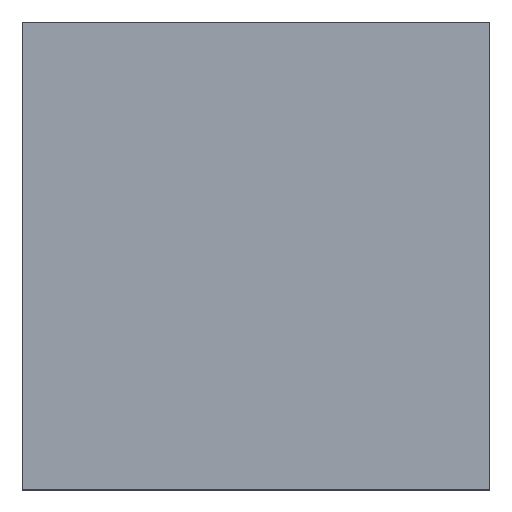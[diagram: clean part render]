
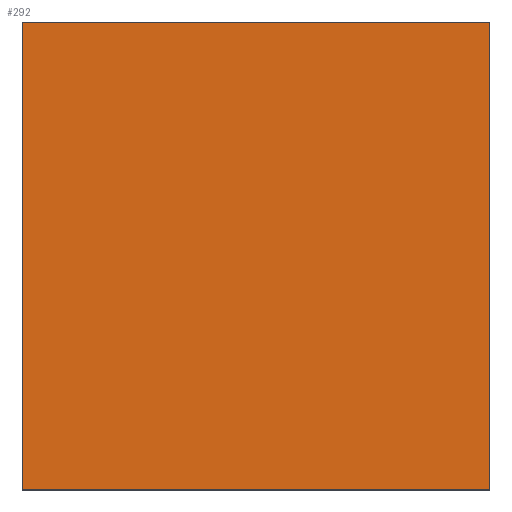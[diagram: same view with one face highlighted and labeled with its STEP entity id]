
A CAD part, top view. The second image highlights one B-rep face of the part: STEP entity #292.
In plain terms, the highlighted planar face has unit normal (0, 0, 1).
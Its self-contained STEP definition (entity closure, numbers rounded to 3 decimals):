
#71 = CARTESIAN_POINT ( 'NONE',  ( -15., -30., 15. ) ) ;
#93 = CARTESIAN_POINT ( 'NONE',  ( 15., 0., 15. ) ) ;
#138 = EDGE_CURVE ( 'NONE', #663, #472, #650, .T. ) ;
#141 = VECTOR ( 'NONE', #701, 1000. ) ;
#150 = VECTOR ( 'NONE', #665, 1000. ) ;
#179 = CARTESIAN_POINT ( 'NONE',  ( 15., -30., 15. ) ) ;
#202 = CARTESIAN_POINT ( 'NONE',  ( -15., -30., 15. ) ) ;
#228 = VERTEX_POINT ( 'NONE', #202 ) ;
#279 = ORIENTED_EDGE ( 'NONE', *, *, #138, .T. ) ;
#292 = ADVANCED_FACE ( 'NONE', ( #608 ), #555, .F. ) ;
#299 = DIRECTION ( 'NONE',  ( 0., -1., 0. ) ) ;
#306 = VECTOR ( 'NONE', #629, 1000. ) ;
#352 = VERTEX_POINT ( 'NONE', #410 ) ;
#375 = EDGE_CURVE ( 'NONE', #352, #228, #500, .T. ) ;
#406 = CARTESIAN_POINT ( 'NONE',  ( -15., 0., 15. ) ) ;
#410 = CARTESIAN_POINT ( 'NONE',  ( 15., -30., 15. ) ) ;
#427 = CARTESIAN_POINT ( 'NONE',  ( 15., -30., 15. ) ) ;
#429 = ORIENTED_EDGE ( 'NONE', *, *, #619, .T. ) ;
#430 = LINE ( 'NONE', #427, #150 ) ;
#439 = ORIENTED_EDGE ( 'NONE', *, *, #681, .F. ) ;
#472 = VERTEX_POINT ( 'NONE', #406 ) ;
#484 = CARTESIAN_POINT ( 'NONE',  ( 15., -30., 15. ) ) ;
#500 = LINE ( 'NONE', #179, #306 ) ;
#507 = AXIS2_PLACEMENT_3D ( 'NONE', #484, #661, #544 ) ;
#543 = VECTOR ( 'NONE', #299, 1000. ) ;
#544 = DIRECTION ( 'NONE',  ( -1., 0., 0. ) ) ;
#555 = PLANE ( 'NONE',  #507 ) ;
#556 = ORIENTED_EDGE ( 'NONE', *, *, #375, .F. ) ;
#584 = LINE ( 'NONE', #71, #543 ) ;
#608 = FACE_OUTER_BOUND ( 'NONE', #689, .T. ) ;
#619 = EDGE_CURVE ( 'NONE', #472, #228, #584, .T. ) ;
#629 = DIRECTION ( 'NONE',  ( -1., 0., 0. ) ) ;
#650 = LINE ( 'NONE', #693, #141 ) ;
#661 = DIRECTION ( 'NONE',  ( 0., 0., -1. ) ) ;
#663 = VERTEX_POINT ( 'NONE', #93 ) ;
#665 = DIRECTION ( 'NONE',  ( 0., -1., 0. ) ) ;
#681 = EDGE_CURVE ( 'NONE', #663, #352, #430, .T. ) ;
#689 = EDGE_LOOP ( 'NONE', ( #429, #556, #439, #279 ) ) ;
#693 = CARTESIAN_POINT ( 'NONE',  ( 15., 0., 15. ) ) ;
#701 = DIRECTION ( 'NONE',  ( -1., 0., 0. ) ) ;
